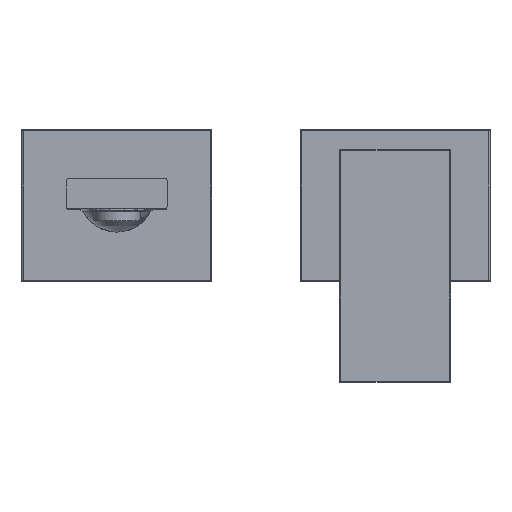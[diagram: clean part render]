
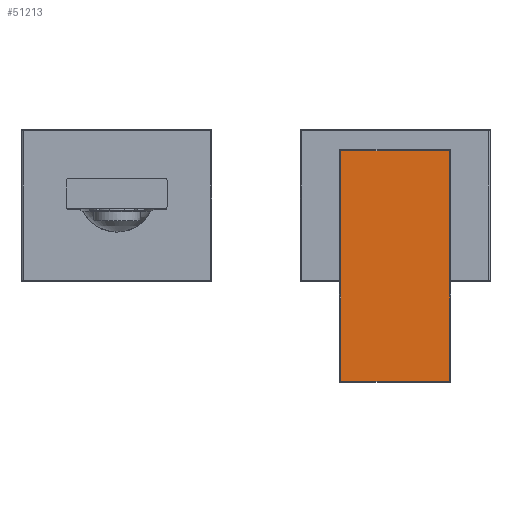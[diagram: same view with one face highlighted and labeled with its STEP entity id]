
A CAD part, top view. The second image highlights one B-rep face of the part: STEP entity #51213.
In plain terms, the highlighted planar face has unit normal (0, 0, 1).
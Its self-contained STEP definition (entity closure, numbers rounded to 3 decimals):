
#40030=DIRECTION('',(1.,0.,0.));
#40031=VECTOR('',#40030,43.);
#40032=CARTESIAN_POINT('',(-23.5,-69.5,108.1));
#40033=LINE('',#40032,#40031);
#40034=DIRECTION('',(0.,-1.,0.));
#40035=VECTOR('',#40034,91.);
#40036=CARTESIAN_POINT('',(-23.5,21.5,108.1));
#40037=LINE('',#40036,#40035);
#40038=DIRECTION('',(-1.,0.,0.));
#40039=VECTOR('',#40038,43.);
#40040=CARTESIAN_POINT('',(19.5,21.5,108.1));
#40041=LINE('',#40040,#40039);
#40042=DIRECTION('',(0.,1.,0.));
#40043=VECTOR('',#40042,91.);
#40044=CARTESIAN_POINT('',(19.5,-69.5,108.1));
#40045=LINE('',#40044,#40043);
#50326=CARTESIAN_POINT('',(-23.5,-69.5,108.1));
#50327=CARTESIAN_POINT('',(19.5,-69.5,108.1));
#50328=VERTEX_POINT('',#50326);
#50329=VERTEX_POINT('',#50327);
#50334=CARTESIAN_POINT('',(19.5,21.5,108.1));
#50335=VERTEX_POINT('',#50334);
#50340=CARTESIAN_POINT('',(-23.5,21.5,108.1));
#50341=VERTEX_POINT('',#50340);
#51199=CARTESIAN_POINT('',(-2.,0.,108.1));
#51200=DIRECTION('',(0.,0.,1.));
#51201=DIRECTION('',(1.,0.,0.));
#51202=AXIS2_PLACEMENT_3D('',#51199,#51200,#51201);
#51203=PLANE('',#51202);
#51205=ORIENTED_EDGE('',*,*,#51204,.F.);
#51207=ORIENTED_EDGE('',*,*,#51206,.F.);
#51208=ORIENTED_EDGE('',*,*,#51189,.F.);
#51210=ORIENTED_EDGE('',*,*,#51209,.F.);
#51211=EDGE_LOOP('',(#51205,#51207,#51208,#51210));
#51212=FACE_OUTER_BOUND('',#51211,.F.);
#51213=ADVANCED_FACE('',(#51212),#51203,.T.);
#51189=EDGE_CURVE('',#50335,#50341,#40041,.T.);
#51204=EDGE_CURVE('',#50328,#50329,#40033,.T.);
#51206=EDGE_CURVE('',#50341,#50328,#40037,.T.);
#51209=EDGE_CURVE('',#50329,#50335,#40045,.T.);
